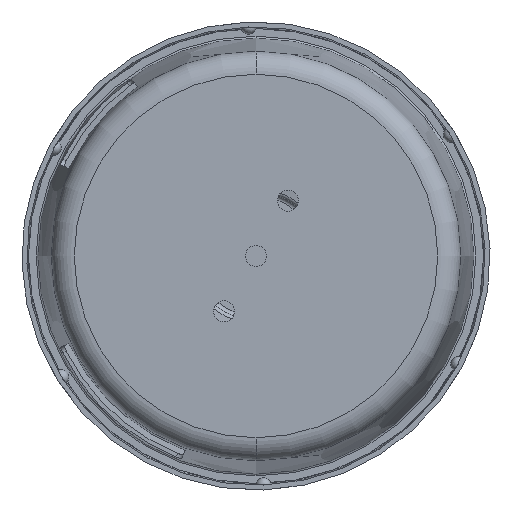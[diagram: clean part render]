
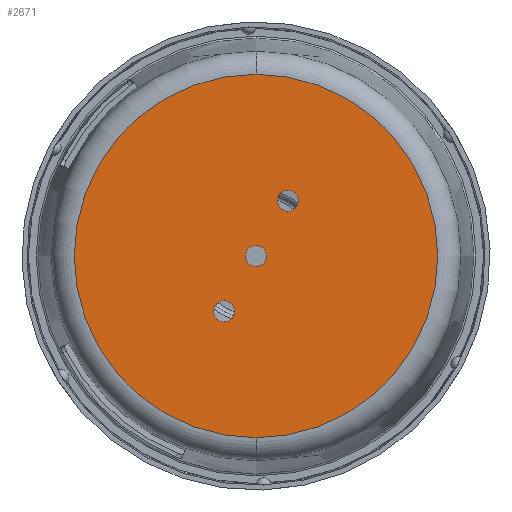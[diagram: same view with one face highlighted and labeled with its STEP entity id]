
A CAD part, front view. The second image highlights one B-rep face of the part: STEP entity #2671.
In plain terms, the highlighted planar face has unit normal (0, -1, 0).
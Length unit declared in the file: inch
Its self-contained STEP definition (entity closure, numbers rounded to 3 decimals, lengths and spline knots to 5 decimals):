
#74 = FACE_OUTER_BOUND ( 'NONE', #4388, .T. ) ;
#260 = CIRCLE ( 'NONE', #1393, 0.328 ) ;
#290 = EDGE_CURVE ( 'NONE', #5503, #1115, #3458, .T. ) ;
#299 = ORIENTED_EDGE ( 'NONE', *, *, #3610, .T. ) ;
#405 = CARTESIAN_POINT ( 'NONE',  ( 0., -0.125, 0. ) ) ;
#415 = AXIS2_PLACEMENT_3D ( 'NONE', #3528, #1788, #5284 ) ;
#464 = AXIS2_PLACEMENT_3D ( 'NONE', #1824, #1368, #1780 ) ;
#483 = CARTESIAN_POINT ( 'NONE',  ( 1., -0.125, 2.06005 ) ) ;
#582 = CIRCLE ( 'NONE', #718, 5.69103 ) ;
#649 = AXIS2_PLACEMENT_3D ( 'NONE', #1874, #2443, #3674 ) ;
#715 = CARTESIAN_POINT ( 'NONE',  ( -1., -0.125, -1.40405 ) ) ;
#718 = AXIS2_PLACEMENT_3D ( 'NONE', #4814, #1769, #2740 ) ;
#865 = CIRCLE ( 'NONE', #649, 0.328 ) ;
#893 = EDGE_CURVE ( 'NONE', #2982, #4805, #2701, .T. ) ;
#963 = EDGE_CURVE ( 'NONE', #1115, #5503, #582, .T. ) ;
#1047 = CARTESIAN_POINT ( 'NONE',  ( 0., -0.125, 0. ) ) ;
#1089 = PLANE ( 'NONE',  #464 ) ;
#1115 = VERTEX_POINT ( 'NONE', #5185 ) ;
#1330 = CARTESIAN_POINT ( 'NONE',  ( 0., -0.125, 0.328 ) ) ;
#1368 = DIRECTION ( 'NONE',  ( 0., 1., 0. ) ) ;
#1393 = AXIS2_PLACEMENT_3D ( 'NONE', #1047, #5093, #3098 ) ;
#1701 = DIRECTION ( 'NONE',  ( 0., 0., 1. ) ) ;
#1702 = CARTESIAN_POINT ( 'NONE',  ( 0., -0.125, -0.328 ) ) ;
#1769 = DIRECTION ( 'NONE',  ( 0., -1., 0. ) ) ;
#1780 = DIRECTION ( 'NONE',  ( 0., 0., 1. ) ) ;
#1788 = DIRECTION ( 'NONE',  ( 0., 1., 0. ) ) ;
#1798 = ORIENTED_EDGE ( 'NONE', *, *, #290, .T. ) ;
#1824 = CARTESIAN_POINT ( 'NONE',  ( 0., -0.125, 0. ) ) ;
#1874 = CARTESIAN_POINT ( 'NONE',  ( 1., -0.125, 1.73205 ) ) ;
#1944 = CARTESIAN_POINT ( 'NONE',  ( -1., -0.125, -1.73205 ) ) ;
#1965 = FACE_BOUND ( 'NONE', #4363, .T. ) ;
#1984 = DIRECTION ( 'NONE',  ( 0., 1., 0. ) ) ;
#2435 = DIRECTION ( 'NONE',  ( 0., 0., 1. ) ) ;
#2443 = DIRECTION ( 'NONE',  ( 0., 1., 0. ) ) ;
#2445 = VERTEX_POINT ( 'NONE', #1702 ) ;
#2485 = EDGE_CURVE ( 'NONE', #4805, #2982, #4312, .T. ) ;
#2542 = DIRECTION ( 'NONE',  ( 0., -1., 0. ) ) ;
#2671 = ADVANCED_FACE ( 'NONE', ( #5768, #3860, #1965, #74 ), #1089, .F. ) ;
#2701 = CIRCLE ( 'NONE', #5116, 0.328 ) ;
#2721 = EDGE_CURVE ( 'NONE', #4819, #2445, #260, .T. ) ;
#2740 = DIRECTION ( 'NONE',  ( 0., 0., 1. ) ) ;
#2910 = VERTEX_POINT ( 'NONE', #3213 ) ;
#2982 = VERTEX_POINT ( 'NONE', #715 ) ;
#3006 = AXIS2_PLACEMENT_3D ( 'NONE', #5678, #2542, #4292 ) ;
#3098 = DIRECTION ( 'NONE',  ( 0., 0., 1. ) ) ;
#3213 = CARTESIAN_POINT ( 'NONE',  ( 1., -0.125, 1.40405 ) ) ;
#3225 = CIRCLE ( 'NONE', #4732, 0.328 ) ;
#3458 = CIRCLE ( 'NONE', #3006, 5.69103 ) ;
#3491 = AXIS2_PLACEMENT_3D ( 'NONE', #5246, #3912, #1701 ) ;
#3513 = ORIENTED_EDGE ( 'NONE', *, *, #4813, .T. ) ;
#3528 = CARTESIAN_POINT ( 'NONE',  ( 1., -0.125, 1.73205 ) ) ;
#3610 = EDGE_CURVE ( 'NONE', #2445, #4819, #3225, .T. ) ;
#3663 = ORIENTED_EDGE ( 'NONE', *, *, #2721, .T. ) ;
#3674 = DIRECTION ( 'NONE',  ( 0., 0., 1. ) ) ;
#3687 = CARTESIAN_POINT ( 'NONE',  ( -1., -0.125, -2.06005 ) ) ;
#3860 = FACE_BOUND ( 'NONE', #5608, .T. ) ;
#3889 = CIRCLE ( 'NONE', #415, 0.328 ) ;
#3905 = CARTESIAN_POINT ( 'NONE',  ( 0., -0.125, -5.69103 ) ) ;
#3912 = DIRECTION ( 'NONE',  ( 0., 1., 0. ) ) ;
#4197 = ORIENTED_EDGE ( 'NONE', *, *, #963, .T. ) ;
#4208 = ORIENTED_EDGE ( 'NONE', *, *, #2485, .T. ) ;
#4292 = DIRECTION ( 'NONE',  ( 0., 0., 1. ) ) ;
#4312 = CIRCLE ( 'NONE', #3491, 0.328 ) ;
#4363 = EDGE_LOOP ( 'NONE', ( #3663, #299 ) ) ;
#4388 = EDGE_LOOP ( 'NONE', ( #4197, #1798 ) ) ;
#4436 = VERTEX_POINT ( 'NONE', #483 ) ;
#4441 = EDGE_LOOP ( 'NONE', ( #4466, #3513 ) ) ;
#4466 = ORIENTED_EDGE ( 'NONE', *, *, #5393, .T. ) ;
#4732 = AXIS2_PLACEMENT_3D ( 'NONE', #405, #5183, #5587 ) ;
#4805 = VERTEX_POINT ( 'NONE', #3687 ) ;
#4813 = EDGE_CURVE ( 'NONE', #2910, #4436, #3889, .T. ) ;
#4814 = CARTESIAN_POINT ( 'NONE',  ( 0., -0.125, 0. ) ) ;
#4819 = VERTEX_POINT ( 'NONE', #1330 ) ;
#5093 = DIRECTION ( 'NONE',  ( 0., 1., 0. ) ) ;
#5116 = AXIS2_PLACEMENT_3D ( 'NONE', #1944, #1984, #2435 ) ;
#5183 = DIRECTION ( 'NONE',  ( 0., 1., 0. ) ) ;
#5185 = CARTESIAN_POINT ( 'NONE',  ( 0., -0.125, 5.69103 ) ) ;
#5246 = CARTESIAN_POINT ( 'NONE',  ( -1., -0.125, -1.73205 ) ) ;
#5284 = DIRECTION ( 'NONE',  ( 0., 0., 1. ) ) ;
#5393 = EDGE_CURVE ( 'NONE', #4436, #2910, #865, .T. ) ;
#5465 = ORIENTED_EDGE ( 'NONE', *, *, #893, .T. ) ;
#5503 = VERTEX_POINT ( 'NONE', #3905 ) ;
#5587 = DIRECTION ( 'NONE',  ( 0., 0., 1. ) ) ;
#5608 = EDGE_LOOP ( 'NONE', ( #5465, #4208 ) ) ;
#5678 = CARTESIAN_POINT ( 'NONE',  ( 0., -0.125, 0. ) ) ;
#5768 = FACE_BOUND ( 'NONE', #4441, .T. ) ;
